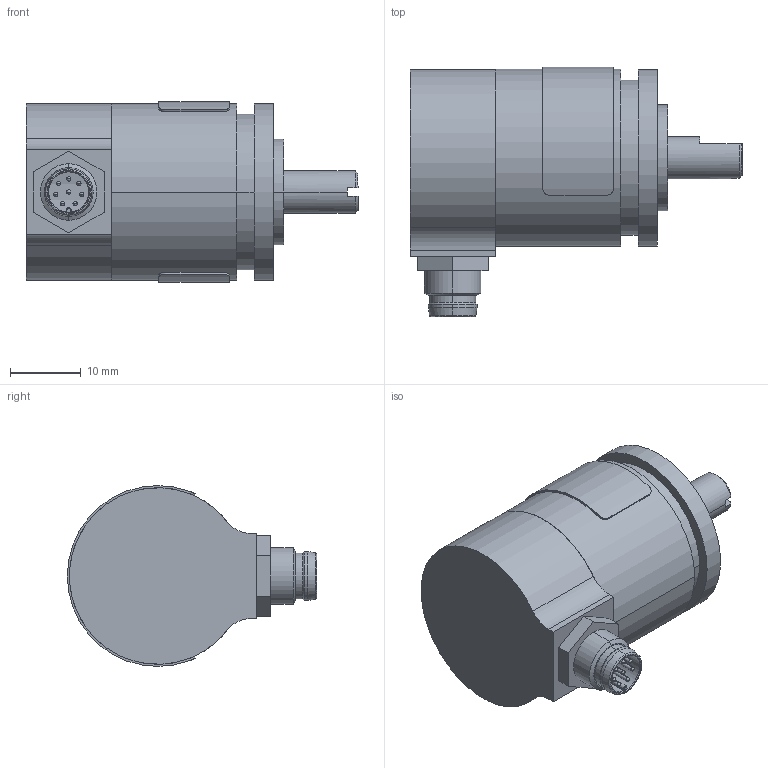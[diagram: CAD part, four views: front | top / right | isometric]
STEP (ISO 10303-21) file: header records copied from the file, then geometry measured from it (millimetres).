
FILE_DESCRIPTION (( 'STEP AP203' ), '1' );
FILE_NAME ('HTx25 6x12 M8 R.STEP', '2022-05-31T13:11:41', ( '' ), ( '' ), 'SwSTEP 2.0', 'SolidWorks 2019', '' );
FILE_SCHEMA (( 'CONFIG_CONTROL_DESIGN' ));
Length unit declared in the file: millimetre
Products named in the file (1): HTx25 6x12 M8 R
Bounding box: 47 x 35.3 x 25.6 mm (x, y, z)
Surface area: 6245.3 mm2 (no closed solid volume)
Topology: 0 solids, 18 shells, 170 faces, 434 edges, 275 vertices
Faces by surface type: cylinder 75, plane 44, cone 28, bspline 23
Entity records: 5630 total; most frequent: CARTESIAN_POINT 1510, DIRECTION 918, ORIENTED_EDGE 751, EDGE_CURVE 418, AXIS2_PLACEMENT_3D 375, VERTEX_POINT 275, CIRCLE 227, EDGE_LOOP 193
